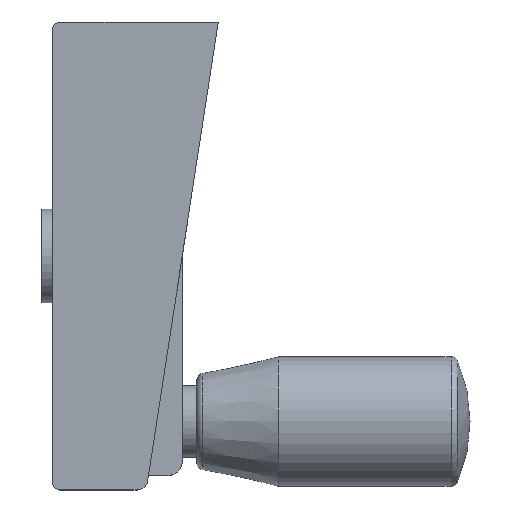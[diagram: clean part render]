
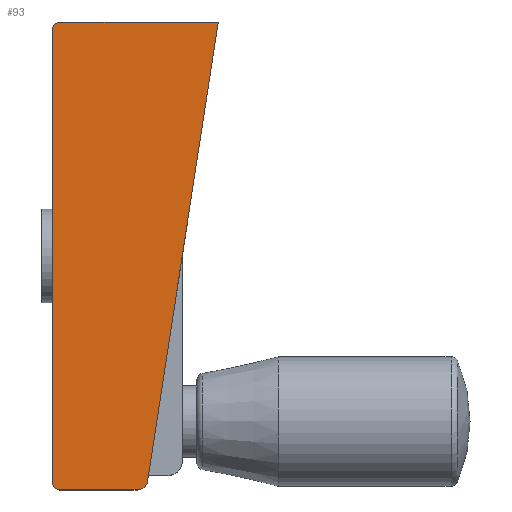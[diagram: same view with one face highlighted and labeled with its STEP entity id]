
A CAD part, top view. The second image highlights one B-rep face of the part: STEP entity #93.
In plain terms, the highlighted planar face has unit normal (0, -0.023, 1).
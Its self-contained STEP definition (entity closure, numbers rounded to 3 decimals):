
#93 = ADVANCED_FACE( '', ( #150 ), #151, .F. );
#150 = FACE_OUTER_BOUND( '', #218, .T. );
#151 = PLANE( '', #219 );
#218 = EDGE_LOOP( '', ( #357, #358, #359, #360, #361, #362, #363, #364, #365, #366, #367 ) );
#219 = AXIS2_PLACEMENT_3D( '', #368, #369, #370 );
#357 = ORIENTED_EDGE( '', *, *, #484, .F. );
#358 = ORIENTED_EDGE( '', *, *, #481, .F. );
#359 = ORIENTED_EDGE( '', *, *, #485, .F. );
#360 = ORIENTED_EDGE( '', *, *, #486, .F. );
#361 = ORIENTED_EDGE( '', *, *, #468, .F. );
#362 = ORIENTED_EDGE( '', *, *, #465, .F. );
#363 = ORIENTED_EDGE( '', *, *, #461, .F. );
#364 = ORIENTED_EDGE( '', *, *, #458, .F. );
#365 = ORIENTED_EDGE( '', *, *, #455, .F. );
#366 = ORIENTED_EDGE( '', *, *, #452, .F. );
#367 = ORIENTED_EDGE( '', *, *, #445, .F. );
#368 = CARTESIAN_POINT( '', ( 24., 0., 11. ) );
#369 = DIRECTION( '', ( 0., 0.023, -1. ) );
#370 = DIRECTION( '', ( 0., 1., 0.023 ) );
#445 = EDGE_CURVE( '', #509, #511, #512, .T. );
#452 = EDGE_CURVE( '', #511, #519, #523, .T. );
#455 = EDGE_CURVE( '', #519, #524, #528, .T. );
#458 = EDGE_CURVE( '', #524, #529, #533, .T. );
#461 = EDGE_CURVE( '', #529, #534, #538, .T. );
#465 = EDGE_CURVE( '', #534, #541, #545, .T. );
#468 = EDGE_CURVE( '', #541, #546, #550, .T. );
#481 = EDGE_CURVE( '', #571, #573, #574, .T. );
#484 = EDGE_CURVE( '', #573, #509, #578, .T. );
#485 = EDGE_CURVE( '', #579, #571, #580, .T. );
#486 = EDGE_CURVE( '', #546, #579, #581, .T. );
#509 = VERTEX_POINT( '', #611 );
#511 = VERTEX_POINT( '', #614 );
#512 = LINE( '', #615, #616 );
#519 = VERTEX_POINT( '', #625 );
#523 = LINE( '', #631, #632 );
#524 = VERTEX_POINT( '', #633 );
#528 = ELLIPSE( '', #638, 1.5, 1.5 );
#529 = VERTEX_POINT( '', #639 );
#533 = LINE( '', #645, #646 );
#534 = VERTEX_POINT( '', #647 );
#538 = ELLIPSE( '', #652, 1., 1. );
#541 = VERTEX_POINT( '', #655 );
#545 = LINE( '', #661, #662 );
#546 = VERTEX_POINT( '', #663 );
#550 = ELLIPSE( '', #668, 1., 1. );
#571 = VERTEX_POINT( '', #692 );
#573 = VERTEX_POINT( '', #695 );
#574 = LINE( '', #696, #697 );
#578 = LINE( '', #703, #704 );
#579 = VERTEX_POINT( '', #705 );
#580 = LINE( '', #706, #707 );
#581 = LINE( '', #708, #709 );
#611 = CARTESIAN_POINT( '', ( 13.31, -63., 9.546 ) );
#614 = CARTESIAN_POINT( '', ( 13.308, -63., 9.546 ) );
#615 = CARTESIAN_POINT( '', ( 13.308, -63., 9.546 ) );
#616 = VECTOR( '', #737, 1000. );
#625 = CARTESIAN_POINT( '', ( 13.196, -63.728, 9.529 ) );
#631 = CARTESIAN_POINT( '', ( 13.239, -63.447, 9.536 ) );
#632 = VECTOR( '', #748, 1000. );
#633 = CARTESIAN_POINT( '', ( 11.713, -65., 9.5 ) );
#638 = AXIS2_PLACEMENT_3D( '', #753, #754, #755 );
#639 = CARTESIAN_POINT( '', ( 1., -65., 9.5 ) );
#645 = CARTESIAN_POINT( '', ( 24., -65., 9.5 ) );
#646 = VECTOR( '', #758, 1000. );
#647 = CARTESIAN_POINT( '', ( 0., -64., 9.523 ) );
#652 = AXIS2_PLACEMENT_3D( '', #763, #764, #765 );
#655 = CARTESIAN_POINT( '', ( 0., -1., 10.977 ) );
#661 = CARTESIAN_POINT( '', ( 0., -0.746, 10.983 ) );
#662 = VECTOR( '', #771, 1000. );
#663 = CARTESIAN_POINT( '', ( 1., 0., 11. ) );
#668 = AXIS2_PLACEMENT_3D( '', #776, #777, #778 );
#692 = CARTESIAN_POINT( '', ( 18., -32.5, 10.25 ) );
#695 = CARTESIAN_POINT( '', ( 18., -32.507, 10.25 ) );
#696 = CARTESIAN_POINT( '', ( 18., -60.714, 9.599 ) );
#697 = VECTOR( '', #804, 1000. );
#703 = CARTESIAN_POINT( '', ( 23.023, 0.15, 11.003 ) );
#704 = VECTOR( '', #807, 1000. );
#705 = CARTESIAN_POINT( '', ( 23., 0., 11. ) );
#706 = CARTESIAN_POINT( '', ( 18.041, -32.235, 10.256 ) );
#707 = VECTOR( '', #808, 1000. );
#708 = CARTESIAN_POINT( '', ( 23., 0., 11. ) );
#709 = VECTOR( '', #809, 1000. );
#737 = DIRECTION( '', ( -1., 0., 0. ) );
#748 = DIRECTION( '', ( -0.152, -0.988, -0.023 ) );
#753 = CARTESIAN_POINT( '', ( 11.713, -63.5, 9.535 ) );
#754 = DIRECTION( '', ( 0., 0.023, -1. ) );
#755 = DIRECTION( '', ( 0., -1., -0.023 ) );
#758 = DIRECTION( '', ( -1., 0., 0. ) );
#763 = CARTESIAN_POINT( '', ( 1., -64., 9.523 ) );
#764 = DIRECTION( '', ( 0., 0.023, -1. ) );
#765 = DIRECTION( '', ( 0., -1., -0.023 ) );
#771 = DIRECTION( '', ( 0., 1., 0.023 ) );
#776 = CARTESIAN_POINT( '', ( 1., -1., 10.977 ) );
#777 = DIRECTION( '', ( 0., 0.023, -1. ) );
#778 = DIRECTION( '', ( 0., -1., -0.023 ) );
#804 = DIRECTION( '', ( 0., -1., -0.023 ) );
#807 = DIRECTION( '', ( -0.152, -0.988, -0.023 ) );
#808 = DIRECTION( '', ( -0.152, -0.988, -0.023 ) );
#809 = DIRECTION( '', ( 1., 0., 0. ) );
